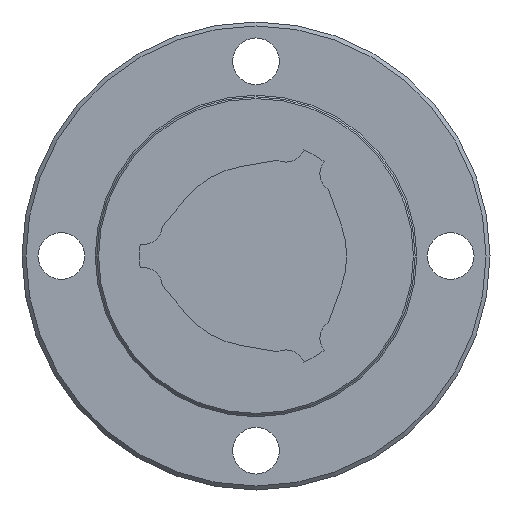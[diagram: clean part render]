
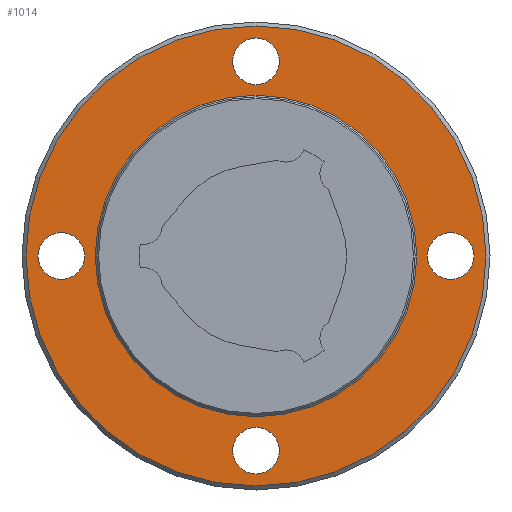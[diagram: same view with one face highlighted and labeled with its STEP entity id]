
A CAD part, left-side view. The second image highlights one B-rep face of the part: STEP entity #1014.
In plain terms, the highlighted planar face has unit normal (-1, 0, 0).
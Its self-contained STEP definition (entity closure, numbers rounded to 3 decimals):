
#49=PLANE('',#1146);
#319=ORIENTED_EDGE('',*,*,#534,.F.);
#320=ORIENTED_EDGE('',*,*,#535,.T.);
#321=ORIENTED_EDGE('',*,*,#536,.T.);
#322=ORIENTED_EDGE('',*,*,#537,.T.);
#323=ORIENTED_EDGE('',*,*,#538,.T.);
#324=ORIENTED_EDGE('',*,*,#533,.T.);
#533=EDGE_CURVE('',#651,#651,#730,.T.);
#534=EDGE_CURVE('',#652,#652,#731,.T.);
#535=EDGE_CURVE('',#653,#653,#732,.T.);
#536=EDGE_CURVE('',#654,#654,#733,.T.);
#537=EDGE_CURVE('',#655,#655,#734,.T.);
#538=EDGE_CURVE('',#656,#656,#735,.T.);
#651=VERTEX_POINT('',#1758);
#652=VERTEX_POINT('',#1761);
#653=VERTEX_POINT('',#1763);
#654=VERTEX_POINT('',#1765);
#655=VERTEX_POINT('',#1767);
#656=VERTEX_POINT('',#1769);
#730=CIRCLE('',#1145,48.3);
#731=CIRCLE('',#1147,69.1);
#732=CIRCLE('',#1148,7.);
#733=CIRCLE('',#1149,7.);
#734=CIRCLE('',#1150,7.);
#735=CIRCLE('',#1151,7.);
#795=EDGE_LOOP('',(#319));
#796=EDGE_LOOP('',(#320));
#797=EDGE_LOOP('',(#321));
#798=EDGE_LOOP('',(#322));
#799=EDGE_LOOP('',(#323));
#800=EDGE_LOOP('',(#324));
#891=FACE_BOUND('',#795,.T.);
#892=FACE_BOUND('',#796,.T.);
#893=FACE_BOUND('',#797,.T.);
#894=FACE_BOUND('',#798,.T.);
#895=FACE_BOUND('',#799,.T.);
#896=FACE_BOUND('',#800,.T.);
#1014=ADVANCED_FACE('',(#891,#892,#893,#894,#895,#896),#49,.F.);
#1145=AXIS2_PLACEMENT_3D('',#1757,#1388,#1389);
#1146=AXIS2_PLACEMENT_3D('',#1759,#1390,#1391);
#1147=AXIS2_PLACEMENT_3D('',#1760,#1392,#1393);
#1148=AXIS2_PLACEMENT_3D('',#1762,#1394,#1395);
#1149=AXIS2_PLACEMENT_3D('',#1764,#1396,#1397);
#1150=AXIS2_PLACEMENT_3D('',#1766,#1398,#1399);
#1151=AXIS2_PLACEMENT_3D('',#1768,#1400,#1401);
#1388=DIRECTION('',(1.,0.,0.));
#1389=DIRECTION('',(0.,1.,0.));
#1390=DIRECTION('',(1.,0.,0.));
#1391=DIRECTION('',(0.,1.,0.));
#1392=DIRECTION('',(1.,0.,0.));
#1393=DIRECTION('',(0.,1.,0.));
#1394=DIRECTION('',(1.,0.,0.));
#1395=DIRECTION('',(0.,0.,-1.));
#1396=DIRECTION('',(1.,0.,0.));
#1397=DIRECTION('',(0.,0.,-1.));
#1398=DIRECTION('',(1.,0.,0.));
#1399=DIRECTION('',(0.,0.,-1.));
#1400=DIRECTION('',(1.,0.,0.));
#1401=DIRECTION('',(0.,0.,-1.));
#1757=CARTESIAN_POINT('',(55.5,0.,0.));
#1758=CARTESIAN_POINT('',(55.5,48.3,0.));
#1759=CARTESIAN_POINT('',(55.5,48.3,0.));
#1760=CARTESIAN_POINT('',(55.5,0.,0.));
#1761=CARTESIAN_POINT('',(55.5,69.1,0.));
#1762=CARTESIAN_POINT('',(55.5,58.5,0.));
#1763=CARTESIAN_POINT('',(55.5,58.5,-7.));
#1764=CARTESIAN_POINT('',(55.5,0.,-58.5));
#1765=CARTESIAN_POINT('',(55.5,0.,-65.5));
#1766=CARTESIAN_POINT('',(55.5,0.,58.5));
#1767=CARTESIAN_POINT('',(55.5,0.,51.5));
#1768=CARTESIAN_POINT('',(55.5,-58.5,0.));
#1769=CARTESIAN_POINT('',(55.5,-58.5,-7.));
